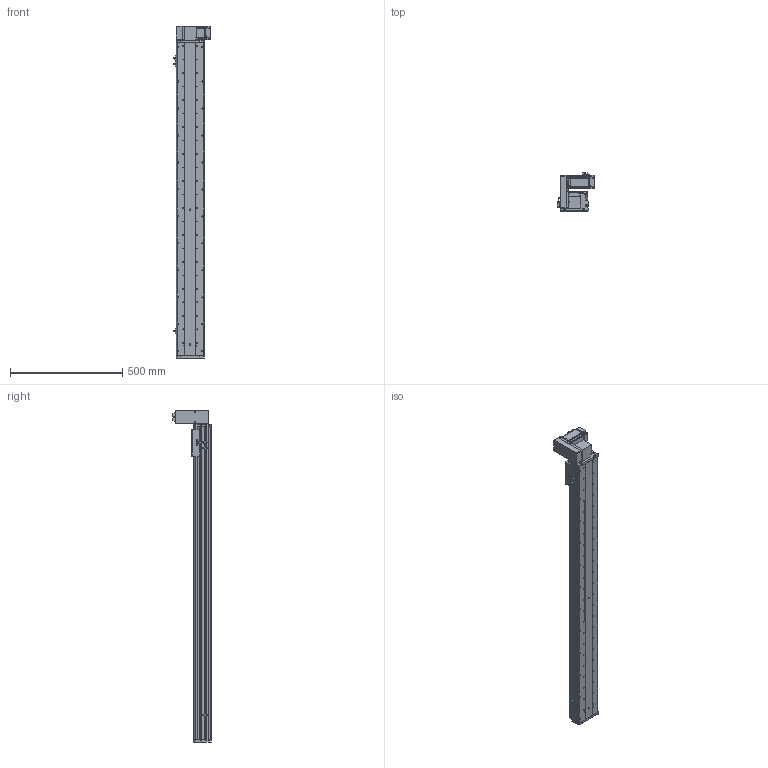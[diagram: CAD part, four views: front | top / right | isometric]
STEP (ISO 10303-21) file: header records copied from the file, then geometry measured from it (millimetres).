
FILE_DESCRIPTION (( 'STEP AP214' ), '1' );
FILE_NAME ('KSD125B-S1200-MRU-CM.STEP', '2017-10-21T07:44:50', ( '微软用户' ), ( '微软中国' ), 'SwSTEP 2.0', 'SolidWorks 2014', '' );
FILE_SCHEMA (( 'AUTOMOTIVE_DESIGN' ));
Length unit declared in the file: millimetre
Products named in the file (17): HTPA30S3M150_A_H6_a萇儂蚚; 100宽马达安装板连板上下折丝杆同步带; KSD125模组1200行程同步带-防尘盖; 125模组1200行程同步带-底板; MHMD042G1CA_2_03; KSD125模组同步带-防撞垫2; 覜茼え68遵圉猾敕; U倰嫖萇假蚾璃; U倰嫖萇EEㄜSX672; KSD125模组同步带-防撞垫1; 100宽马达安装板同步带右; 前端板-125宽模组同步带; 125模组同步带-尾端板1; KSD125模组同步带-滑动座1; KSD125B-S1200-MRU-CM; 悵誘欶奻狟殏; HTPA30S3M150_A_H6_a佪裝蚚
Assembly tree (20 placements, depth 2):
  KSD125B-S1200-MRU-CM
    KSD125模组同步带-滑动座1
    125模组同步带-尾端板1
    前端板-125宽模组同步带
    100宽马达安装板同步带右
    KSD125模组同步带-防撞垫1
    U倰嫖萇EEㄜSX672  x3
    U倰嫖萇假蚾璃  x3
    覜茼え68遵圉猾敕
    KSD125模组同步带-防撞垫2
    MHMD042G1CA_2_03
    125模组1200行程同步带-底板
    KSD125模组1200行程同步带-防尘盖
    100宽马达安装板连板上下折丝杆同步带
    HTPA30S3M150_A_H6_a萇儂蚚
    HTPA30S3M150_A_H6_a佪裝蚚
    悵誘欶奻狟殏
Bounding box: 168.7 x 170.5 x 1477 mm (x, y, z)
Volume: 4459118.3 mm3; surface area: 1489194.5 mm2
Topology: 19 solids, 22 shells, 2347 faces, 6805 edges, 4498 vertices
Faces by surface type: cylinder 1488, plane 732, cone 105, bspline 22
Entity records: 83843 total; most frequent: CARTESIAN_POINT 16515, DIRECTION 13026, ORIENTED_EDGE 12130, EDGE_CURVE 6143, AXIS2_PLACEMENT_3D 5049, VERTEX_POINT 4090, VECTOR 2928, LINE 2928
